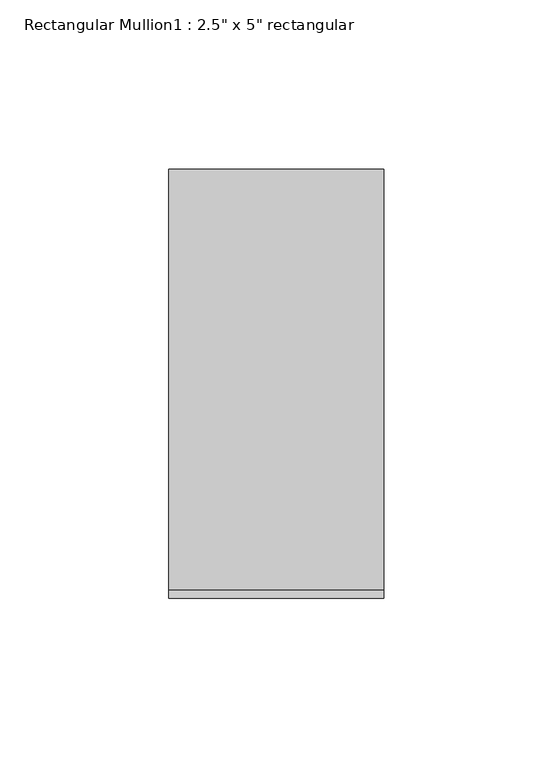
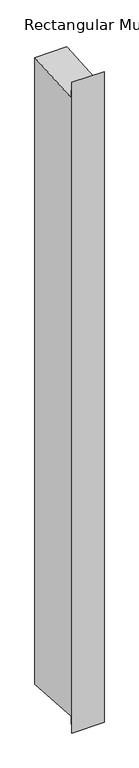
"""IFC4 building model written with IfcOpenShell, lengths in millimetres: member geometry."""

from ifc_helpers import new_model, si_unit, frame, origin, place, context, project, spatial, polyline, outline, extrude, source, transform, mapped, element, save


def member_7395c1fc(model_context):
    return source(origin(), model_context, "Body", "SweptSolid", [
        extrude(outline(polyline([(-63.5, 29.5074223), (-61.1020145, -4.4004678), (63.5, 4.4114583), (63.5, -1307.1798222), (-61.1020145, -1298.3678961), (-63.5, -1332.2757861), (-63.5, 29.5074223)])), frame((-63.5, 0.0, 0.0), z_axis=(1.0, 0.0, 0.0), x_axis=(0.0, 1.0, 0.0)), (0.0, 0.0, 1.0), 63.5),
    ])


if __name__ == "__main__":
    model = new_model("IFC4")
    model_context = context("Model", 3, world=origin())
    ifc_project = project(units=[si_unit("LENGTHUNIT", "METRE", prefix="MILLI")], contexts=[model_context])
    site = spatial("IfcSite", under=ifc_project)
    building = spatial("IfcBuilding", under=site)
    placement = place(None, origin())
    member_shape = member_7395c1fc(model_context)
    element("IfcMember", 1, ObjectType="Rectangular Mullion1 : 2.5\" x 5\" rectangular", at=placement, inside=building, context=model_context, shape_type="MappedRepresentation", body=[
        mapped(member_shape, transform((0.0, 0.0, 0.0), x_axis=(1.0, 0.0, 0.0), y_axis=(0.0, 1.0, 0.0), z_axis=(0.0, 0.0, 1.0))),
    ])
    save(model, "model.ifc")
